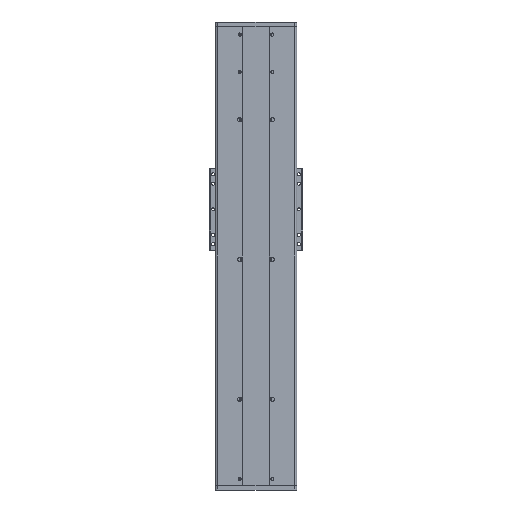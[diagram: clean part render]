
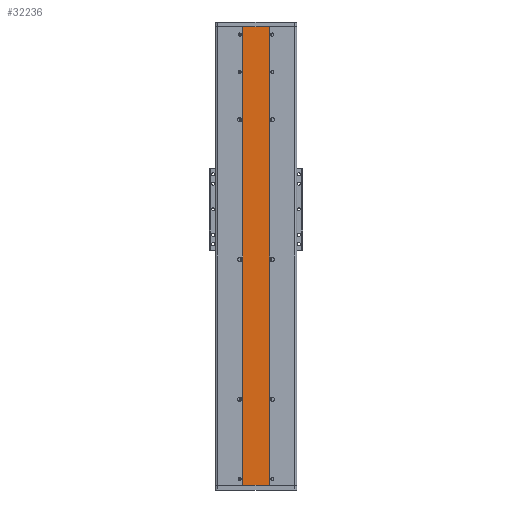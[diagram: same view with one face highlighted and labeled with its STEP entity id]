
A CAD part, front view. The second image highlights one B-rep face of the part: STEP entity #32236.
In plain terms, the highlighted planar face has unit normal (0, -1, 0).
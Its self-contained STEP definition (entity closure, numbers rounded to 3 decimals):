
#692 = VERTEX_POINT ( 'NONE', #36674 ) ;
#2317 = AXIS2_PLACEMENT_3D ( 'NONE', #13535, #36617, #17006 ) ;
#3035 = DIRECTION ( 'NONE',  ( -1., 0., 0. ) ) ;
#5182 = LINE ( 'NONE', #20375, #39126 ) ;
#12340 = EDGE_CURVE ( 'NONE', #13600, #16423, #5182, .T. ) ;
#12720 = CARTESIAN_POINT ( 'NONE',  ( 1.27, -85.314, 985. ) ) ;
#13510 = CARTESIAN_POINT ( 'NONE',  ( 1.27, -85.314, 985. ) ) ;
#13535 = CARTESIAN_POINT ( 'NONE',  ( 1.27, -85.314, -895. ) ) ;
#13600 = VERTEX_POINT ( 'NONE', #35718 ) ;
#13866 = VECTOR ( 'NONE', #21187, 1000. ) ;
#14684 = LINE ( 'NONE', #39268, #39855 ) ;
#16423 = VERTEX_POINT ( 'NONE', #39344 ) ;
#17006 = DIRECTION ( 'NONE',  ( 0., 0., 1. ) ) ;
#18702 = EDGE_CURVE ( 'NONE', #16423, #28998, #23959, .T. ) ;
#18860 = EDGE_LOOP ( 'NONE', ( #19687, #28204, #22583, #27825 ) ) ;
#19687 = ORIENTED_EDGE ( 'NONE', *, *, #12340, .T. ) ;
#20375 = CARTESIAN_POINT ( 'NONE',  ( 58.27, -85.314, -895. ) ) ;
#21187 = DIRECTION ( 'NONE',  ( -1., 0., 0. ) ) ;
#22583 = ORIENTED_EDGE ( 'NONE', *, *, #39423, .F. ) ;
#23959 = LINE ( 'NONE', #12720, #31643 ) ;
#26763 = PLANE ( 'NONE',  #2317 ) ;
#26985 = DIRECTION ( 'NONE',  ( 0., 0., 1. ) ) ;
#27825 = ORIENTED_EDGE ( 'NONE', *, *, #33616, .F. ) ;
#28204 = ORIENTED_EDGE ( 'NONE', *, *, #18702, .T. ) ;
#28819 = FACE_OUTER_BOUND ( 'NONE', #18860, .T. ) ;
#28998 = VERTEX_POINT ( 'NONE', #13510 ) ;
#31643 = VECTOR ( 'NONE', #3035, 1000. ) ;
#32236 = ADVANCED_FACE ( 'NONE', ( #28819 ), #26763, .F. ) ;
#33616 = EDGE_CURVE ( 'NONE', #13600, #692, #39029, .T. ) ;
#35718 = CARTESIAN_POINT ( 'NONE',  ( 58.27, -85.314, 0. ) ) ;
#36617 = DIRECTION ( 'NONE',  ( 0., 1., 0. ) ) ;
#36674 = CARTESIAN_POINT ( 'NONE',  ( 1.27, -85.314, 0. ) ) ;
#39029 = LINE ( 'NONE', #40822, #13866 ) ;
#39126 = VECTOR ( 'NONE', #26985, 1000. ) ;
#39268 = CARTESIAN_POINT ( 'NONE',  ( 1.27, -85.314, -895. ) ) ;
#39344 = CARTESIAN_POINT ( 'NONE',  ( 58.27, -85.314, 985. ) ) ;
#39423 = EDGE_CURVE ( 'NONE', #692, #28998, #14684, .T. ) ;
#39855 = VECTOR ( 'NONE', #42593, 1000. ) ;
#40822 = CARTESIAN_POINT ( 'NONE',  ( 0., -85.314, 0. ) ) ;
#42593 = DIRECTION ( 'NONE',  ( 0., 0., 1. ) ) ;
